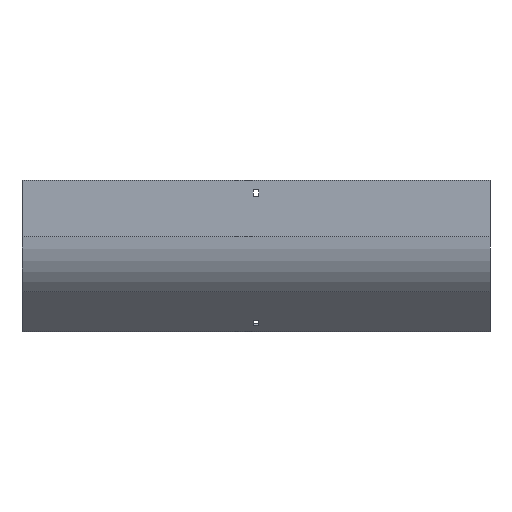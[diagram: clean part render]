
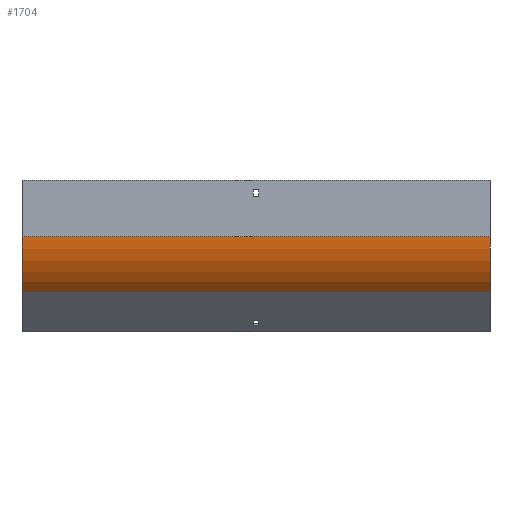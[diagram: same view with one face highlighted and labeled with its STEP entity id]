
A CAD part, front view. The second image highlights one B-rep face of the part: STEP entity #1704.
In plain terms, the highlighted cylindrical face has radius 100 mm (diameter 200 mm), a partial arc.
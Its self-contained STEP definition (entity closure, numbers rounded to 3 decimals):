
#21 = DIRECTION ( 'NONE',  ( 0., 0., 1. ) ) ;
#30 = CARTESIAN_POINT ( 'NONE',  ( 302., -4., -73.078 ) ) ;
#62 = VERTEX_POINT ( 'NONE', #1257 ) ;
#93 = DIRECTION ( 'NONE',  ( -1., 0., 0. ) ) ;
#129 = ORIENTED_EDGE ( 'NONE', *, *, #1141, .T. ) ;
#216 = VERTEX_POINT ( 'NONE', #1804 ) ;
#236 = DIRECTION ( 'NONE',  ( 1., 0., 0. ) ) ;
#290 = EDGE_CURVE ( 'NONE', #62, #1840, #928, .T. ) ;
#406 = ORIENTED_EDGE ( 'NONE', *, *, #290, .F. ) ;
#453 = DIRECTION ( 'NONE',  ( 0., 0., 1. ) ) ;
#523 = CARTESIAN_POINT ( 'NONE',  ( -302., -74.711, -143.789 ) ) ;
#609 = CIRCLE ( 'NONE', #1046, 100. ) ;
#740 = DIRECTION ( 'NONE',  ( -1., 0., 0. ) ) ;
#811 = ORIENTED_EDGE ( 'NONE', *, *, #1915, .T. ) ;
#900 = FACE_OUTER_BOUND ( 'NONE', #1557, .T. ) ;
#913 = CARTESIAN_POINT ( 'NONE',  ( -302., -104., -73.078 ) ) ;
#928 = LINE ( 'NONE', #1534, #1196 ) ;
#953 = CIRCLE ( 'NONE', #984, 100. ) ;
#984 = AXIS2_PLACEMENT_3D ( 'NONE', #1584, #236, #1939 ) ;
#994 = CARTESIAN_POINT ( 'NONE',  ( 302., -104., -73.078 ) ) ;
#1046 = AXIS2_PLACEMENT_3D ( 'NONE', #1193, #1058, #21 ) ;
#1058 = DIRECTION ( 'NONE',  ( 1., 0., 0. ) ) ;
#1094 = VECTOR ( 'NONE', #93, 1000. ) ;
#1140 = AXIS2_PLACEMENT_3D ( 'NONE', #30, #1375, #453 ) ;
#1141 = EDGE_CURVE ( 'NONE', #1515, #1840, #953, .T. ) ;
#1187 = EDGE_CURVE ( 'NONE', #216, #62, #609, .T. ) ;
#1193 = CARTESIAN_POINT ( 'NONE',  ( 302., -4., -73.078 ) ) ;
#1196 = VECTOR ( 'NONE', #740, 1000. ) ;
#1257 = CARTESIAN_POINT ( 'NONE',  ( 302., -74.711, -143.789 ) ) ;
#1367 = CYLINDRICAL_SURFACE ( 'NONE', #1140, 100. ) ;
#1375 = DIRECTION ( 'NONE',  ( -1., 0., 0. ) ) ;
#1515 = VERTEX_POINT ( 'NONE', #913 ) ;
#1533 = ORIENTED_EDGE ( 'NONE', *, *, #1187, .F. ) ;
#1534 = CARTESIAN_POINT ( 'NONE',  ( 302., -74.711, -143.789 ) ) ;
#1557 = EDGE_LOOP ( 'NONE', ( #129, #406, #1533, #811 ) ) ;
#1584 = CARTESIAN_POINT ( 'NONE',  ( -302., -4., -73.078 ) ) ;
#1704 = ADVANCED_FACE ( 'NONE', ( #900 ), #1367, .T. ) ;
#1804 = CARTESIAN_POINT ( 'NONE',  ( 302., -104., -73.078 ) ) ;
#1840 = VERTEX_POINT ( 'NONE', #523 ) ;
#1915 = EDGE_CURVE ( 'NONE', #216, #1515, #1916, .T. ) ;
#1916 = LINE ( 'NONE', #994, #1094 ) ;
#1939 = DIRECTION ( 'NONE',  ( 0., 0., 1. ) ) ;
